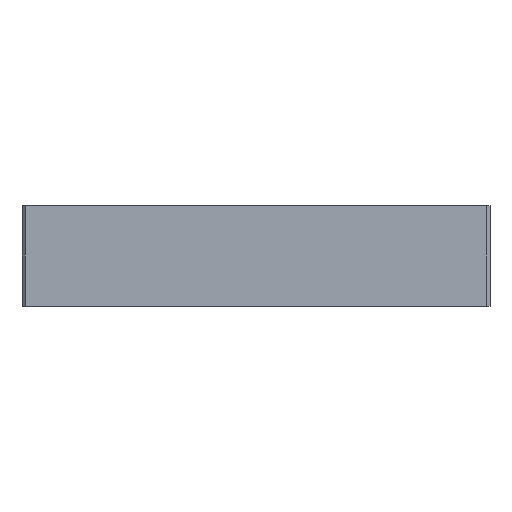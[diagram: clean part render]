
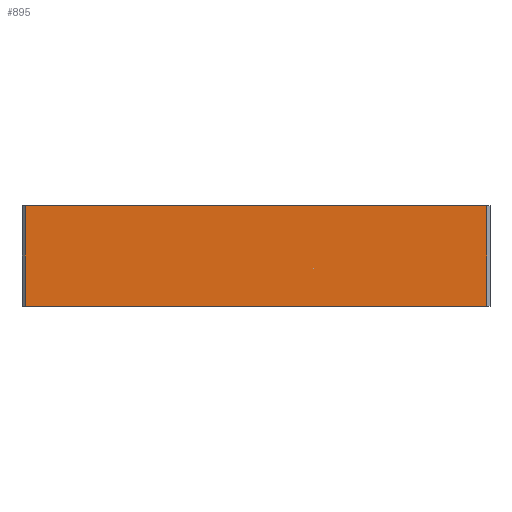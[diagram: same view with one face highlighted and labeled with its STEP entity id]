
A CAD part, front view. The second image highlights one B-rep face of the part: STEP entity #895.
In plain terms, the highlighted planar face has unit normal (0, -1, 0).
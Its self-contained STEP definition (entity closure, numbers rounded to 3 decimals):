
#7 = DIRECTION ( 'NONE',  ( 0., 0., -1. ) ) ;
#36 = VECTOR ( 'NONE', #678, 1000. ) ;
#38 = LINE ( 'NONE', #1348, #881 ) ;
#109 = FACE_OUTER_BOUND ( 'NONE', #1208, .T. ) ;
#180 = VERTEX_POINT ( 'NONE', #1449 ) ;
#238 = LINE ( 'NONE', #1189, #1155 ) ;
#263 = EDGE_CURVE ( 'NONE', #958, #1291, #238, .T. ) ;
#330 = LINE ( 'NONE', #673, #36 ) ;
#394 = ORIENTED_EDGE ( 'NONE', *, *, #1442, .T. ) ;
#485 = AXIS2_PLACEMENT_3D ( 'NONE', #1103, #750, #1172 ) ;
#653 = PLANE ( 'NONE',  #485 ) ;
#673 = CARTESIAN_POINT ( 'NONE',  ( 34.5, -35., 7.5 ) ) ;
#675 = CARTESIAN_POINT ( 'NONE',  ( 34.5, -35., -7.5 ) ) ;
#678 = DIRECTION ( 'NONE',  ( 0., 0., 1. ) ) ;
#715 = EDGE_CURVE ( 'NONE', #180, #821, #1314, .T. ) ;
#744 = ORIENTED_EDGE ( 'NONE', *, *, #263, .T. ) ;
#750 = DIRECTION ( 'NONE',  ( 0., 1., 0. ) ) ;
#755 = DIRECTION ( 'NONE',  ( 1., 0., 0. ) ) ;
#821 = VERTEX_POINT ( 'NONE', #1347 ) ;
#823 = CARTESIAN_POINT ( 'NONE',  ( -35., -35., 7.5 ) ) ;
#846 = ORIENTED_EDGE ( 'NONE', *, *, #715, .F. ) ;
#881 = VECTOR ( 'NONE', #7, 1000. ) ;
#895 = ADVANCED_FACE ( 'NONE', ( #109 ), #653, .F. ) ;
#958 = VERTEX_POINT ( 'NONE', #1336 ) ;
#960 = EDGE_CURVE ( 'NONE', #1291, #821, #330, .T. ) ;
#1014 = VECTOR ( 'NONE', #1285, 1000. ) ;
#1103 = CARTESIAN_POINT ( 'NONE',  ( -35., -35., 7.5 ) ) ;
#1155 = VECTOR ( 'NONE', #755, 1000. ) ;
#1172 = DIRECTION ( 'NONE',  ( -1., 0., 0. ) ) ;
#1189 = CARTESIAN_POINT ( 'NONE',  ( -35., -35., -7.5 ) ) ;
#1208 = EDGE_LOOP ( 'NONE', ( #846, #394, #744, #1255 ) ) ;
#1255 = ORIENTED_EDGE ( 'NONE', *, *, #960, .T. ) ;
#1285 = DIRECTION ( 'NONE',  ( 1., 0., 0. ) ) ;
#1291 = VERTEX_POINT ( 'NONE', #675 ) ;
#1314 = LINE ( 'NONE', #823, #1014 ) ;
#1336 = CARTESIAN_POINT ( 'NONE',  ( -34.5, -35., -7.5 ) ) ;
#1347 = CARTESIAN_POINT ( 'NONE',  ( 34.5, -35., 7.5 ) ) ;
#1348 = CARTESIAN_POINT ( 'NONE',  ( -34.5, -35., 7.5 ) ) ;
#1442 = EDGE_CURVE ( 'NONE', #180, #958, #38, .T. ) ;
#1449 = CARTESIAN_POINT ( 'NONE',  ( -34.5, -35., 7.5 ) ) ;
